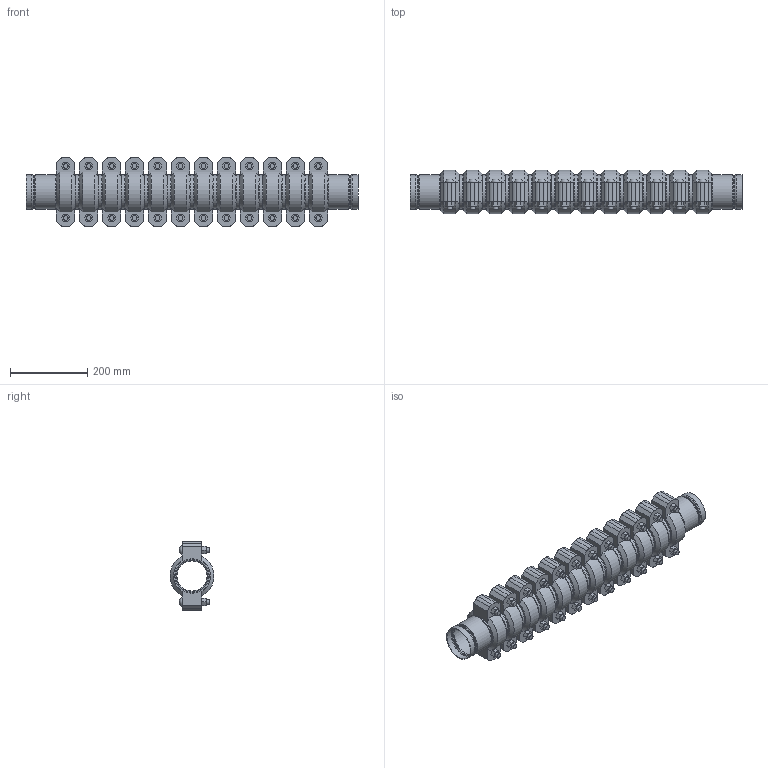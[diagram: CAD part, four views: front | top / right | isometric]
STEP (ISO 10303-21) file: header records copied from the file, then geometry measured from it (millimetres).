
FILE_DESCRIPTION(/* description */ ('VIC STRENGTHIN 100 EXPANSION JOINT 12 COUPLINGS NEUTRAL STYLE E155 (ST1)','CAx-IF Rec.Pracs.---Representation and Presentation of Product Manufacturing Information (PMI)---4.0---2014-10-13'),/* implementation_level */ '2;1');
FILE_NAME(/* name */ 'C:\Users\Vjadhav\AppData\Roaming\Autodesk\ApplicationPlugins\Victaulic.Temp\A29\Victaulic_SS-StrengThin 100_Expansion Joint_Neutral_12 Couplings_Style E155 (ST1)_12 Coup_Neut_3 (80).stp',/* time_stamp */ '2021-07-20T17:42:21+05:00',/* author */ ('kkamble'),/* organization */ ('Victaulic'),/* preprocessor_version */ 'ST-DEVELOPER v17.2',/* originating_system */ 'Autodesk Inventor 2019',/* authorisation */ '');
FILE_SCHEMA (('AP242_MANAGED_MODEL_BASED_3D_ENGINEERING_MIM_LF { 1 0 10303 442 1 1 4 }'));
Length unit declared in the file: inch
Products named in the file (4): E155-03.0; E494G-03.0; Nipple-03.0; 075-03.0
Assembly tree (25 placements, depth 2):
  E155-03.0
    E494G-03.0  x2
    Nipple-03.0  x11
    075-03.0  x12
Bounding box: 860.55 x 113.88 x 177.8 mm (x, y, z)
Volume: 4888383.6 mm3; surface area: 1232798.5 mm2
Topology: 25 solids, 49 shells, 884 faces, 2148 edges, 1510 vertices
Faces by surface type: plane 510, cylinder 266, cone 52, torus 32, bspline 24
Full cylindrical faces by diameter (mm): 12.7 x48, 14.605 x24, 77.927 x11, 79.985 x2, 81.737 x2, 82.55 x12, 83.185 x2, 84.938 x24, 85.7 x6, 88.9 x63
Entity records: 3862 total; most frequent: DIRECTION 693, CARTESIAN_POINT 671, ORIENTED_EDGE 548, AXIS2_PLACEMENT_3D 297, EDGE_CURVE 274, VERTEX_POINT 197, CIRCLE 167, EDGE_LOOP 129
